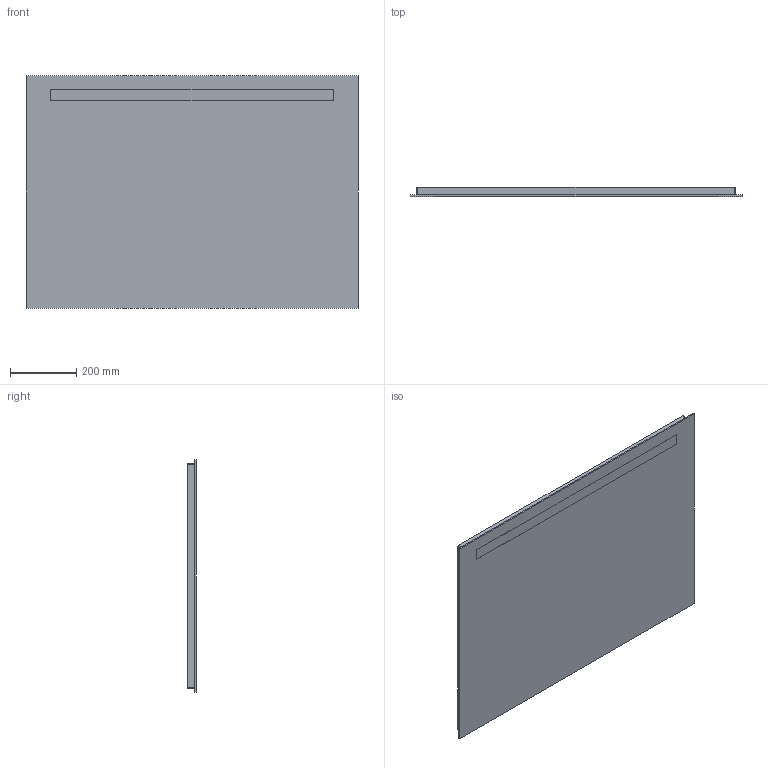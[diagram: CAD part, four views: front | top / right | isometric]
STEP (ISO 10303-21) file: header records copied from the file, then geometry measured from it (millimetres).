
FILE_DESCRIPTION(/* description */ (''),/* implementation_level */ '2;1');
FILE_NAME(/* name */ 'C:\Planerdaten\Export PLA\502.809.00.1\stp\502809.stp',/* time_stamp */ '2022-12-02T15:13:28+01:00',/* author */ ('JANAN'),/* organization */ (''),/* preprocessor_version */ 'ST-DEVELOPER v18.1',/* originating_system */ 'Autodesk Inventor 2021',/* authorisation */ '');
FILE_SCHEMA (('AUTOMOTIVE_DESIGN { 1 0 10303 214 3 1 1 }'));
Length unit declared in the file: millimetre
Products named in the file (1): tmpA3A5.tmp
Bounding box: 1000 x 26 x 700 mm (x, y, z)
Volume: 17156444.4 mm3; surface area: 2792413.5 mm2
Topology: 2 solids, 2 shells, 29 faces, 68 edges, 48 vertices
Faces by surface type: plane 21, cylinder 8
Full cylindrical faces by diameter (mm): 8 x4
Entity records: 937 total; most frequent: DIRECTION 152, CARTESIAN_POINT 146, ORIENTED_EDGE 136, EDGE_CURVE 68, AXIS2_PLACEMENT_3D 54, VERTEX_POINT 48, LINE 44, VECTOR 44
